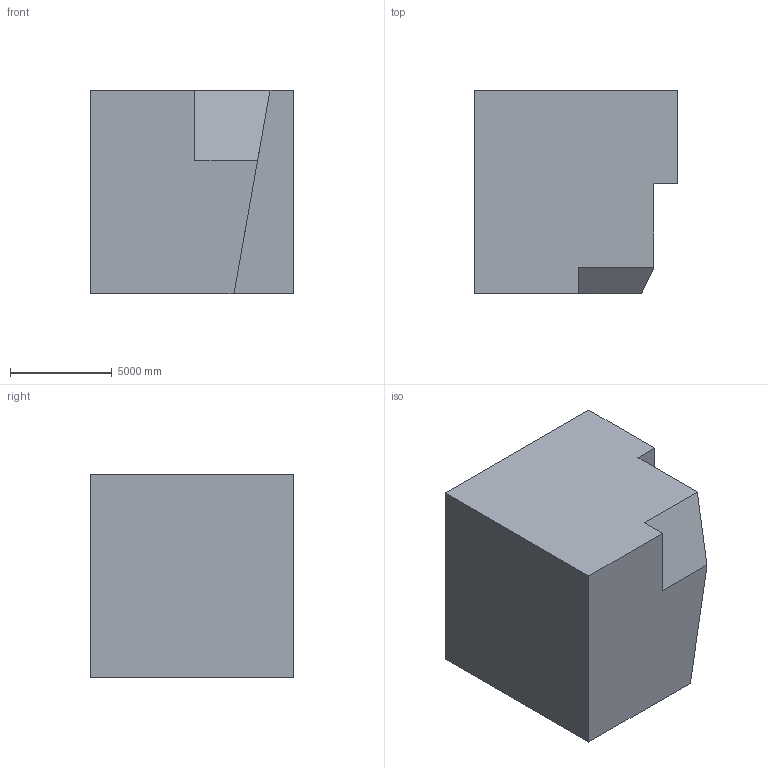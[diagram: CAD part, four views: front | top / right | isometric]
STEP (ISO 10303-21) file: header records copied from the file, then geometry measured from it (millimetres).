
FILE_DESCRIPTION (( 'STEP AP203' ), '1' );
FILE_NAME ('21.STEP', '2022-08-31T11:11:17', ( 'user' ), ( '' ), 'SwSTEP 2.0', 'SolidWorks 2021', '' );
FILE_SCHEMA (( 'CONFIG_CONTROL_DESIGN' ));
Length unit declared in the file: centimetre
Products named in the file (1): 21
Bounding box: 10000 x 10000 x 10000 mm (x, y, z)
Volume: 881389518344.8 mm3; surface area: 574671834.5 mm2
Topology: 1 solids, 1 shells, 10 faces, 24 edges, 16 vertices
Faces by surface type: plane 10
Entity records: 365 total; most frequent: CARTESIAN_POINT 51, ORIENTED_EDGE 48, DIRECTION 46, LINE 24, VECTOR 24, EDGE_CURVE 24, VERTEX_POINT 16, AXIS2_PLACEMENT_3D 11
